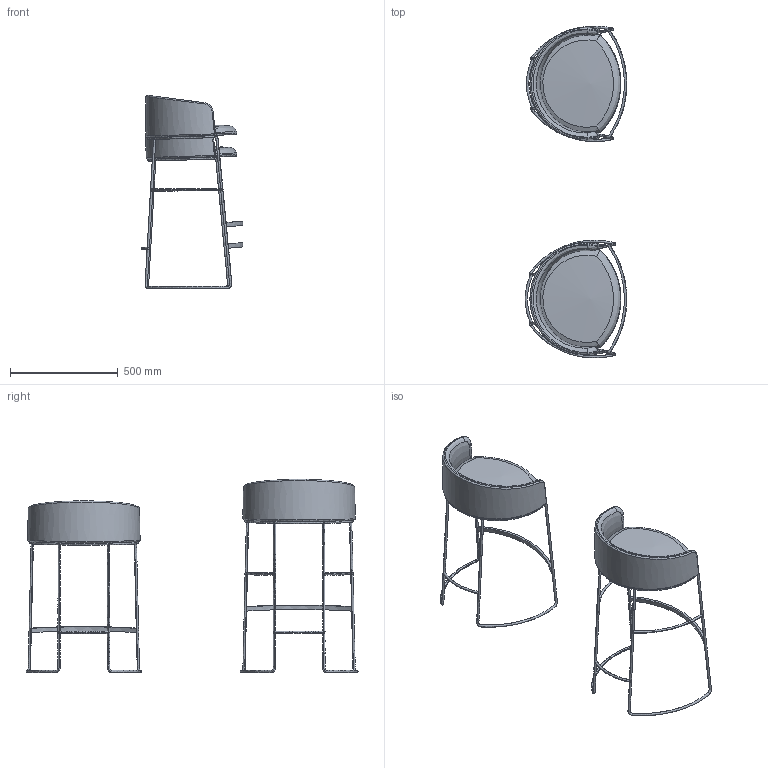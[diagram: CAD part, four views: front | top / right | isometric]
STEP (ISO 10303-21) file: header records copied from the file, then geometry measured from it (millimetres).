
FILE_DESCRIPTION(/* description */ (''),/* implementation_level */ '2;1');
FILE_NAME(/* name */ 'TONICI~1',/* time_stamp */ '2026-05-13T10:47:11+02:00',/* author */ (''),/* organization */ (''),/* preprocessor_version */ 'ST-DEVELOPER v15',/* originating_system */ '',/* authorisation */ '');
FILE_SCHEMA (('AUTOMOTIVE_DESIGN'));
Length unit declared in the file: millimetre
Products named in the file (1): Document
Bounding box: 473.1 x 1542.38 x 898.02 mm (x, y, z)
Volume: 24367043.1 mm3; surface area: 1872373.7 mm2
Topology: 24 solids, 24 shells, 228 faces, 504 edges, 332 vertices
Faces by surface type: bspline 136, plane 92
Entity records: 34882 total; most frequent: CARTESIAN_POINT 31483, ORIENTED_EDGE 992, EDGE_CURVE 496, VERTEX_POINT 316, EDGE_LOOP 256, ADVANCED_FACE 228, FACE_OUTER_BOUND 228, B_SPLINE_CURVE_WITH_KNOTS 220
